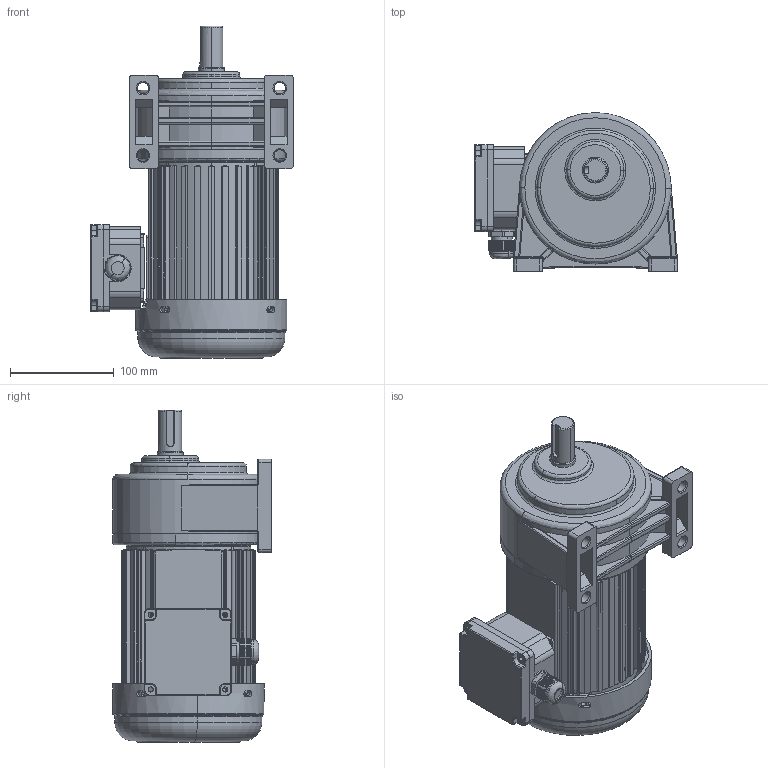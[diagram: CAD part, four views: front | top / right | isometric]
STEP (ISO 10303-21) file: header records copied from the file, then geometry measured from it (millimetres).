
FILE_DESCRIPTION (( 'STEP AP203' ), '1' );
FILE_NAME ('400W配2#卧式.STEP', '2019-06-14T07:24:24', ( '微软中国' ), ( '微软用户' ), 'SwSTEP 2.0', 'SolidWorks 2012', '' );
FILE_SCHEMA (( 'CONFIG_CONTROL_DESIGN' ));
Length unit declared in the file: millimetre
Products named in the file (10): 400W饜2#拏宒; 2#拏宒熬厒ん; 400W瑞欶; 2xg400w; 釱菜; 綴傷裔 2_2; 坶踡ん 蚾饜; 蜊輛綴諉盄碟裔; 呿蹋諉盄碟; 儂褲 2_2
Assembly tree (9 placements, depth 2):
  400W饜2#拏宒
    儂褲 2_2
    呿蹋諉盄碟
    蜊輛綴諉盄碟裔
    坶踡ん 蚾饜
    綴傷裔 2_2
    釱菜
    2xg400w
    400W瑞欶
    2#拏宒熬厒ん
Bounding box: 195.35 x 153 x 320.14 mm (x, y, z)
Volume: 1918264.4 mm3; surface area: 509373.8 mm2
Topology: 8 solids, 10 shells, 2715 faces, 7137 edges, 4502 vertices
Faces by surface type: cylinder 1070, plane 768, bspline 424, torus 248, cone 152, sphere 53
Entity records: 108871 total; most frequent: CARTESIAN_POINT 43236, ORIENTED_EDGE 14138, DIRECTION 12834, EDGE_CURVE 7071, AXIS2_PLACEMENT_3D 4963, VERTEX_POINT 4486, EDGE_LOOP 3107, LINE 2908
